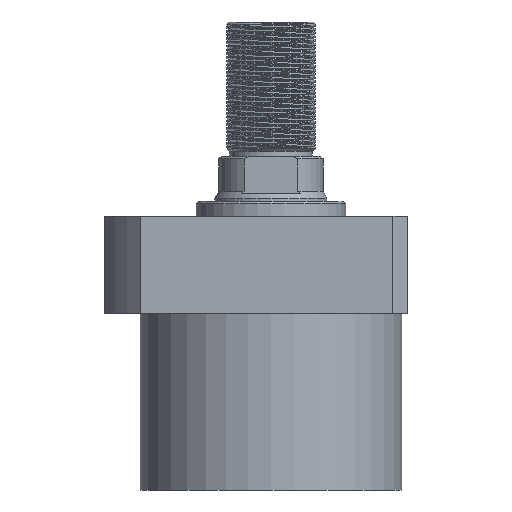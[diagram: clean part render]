
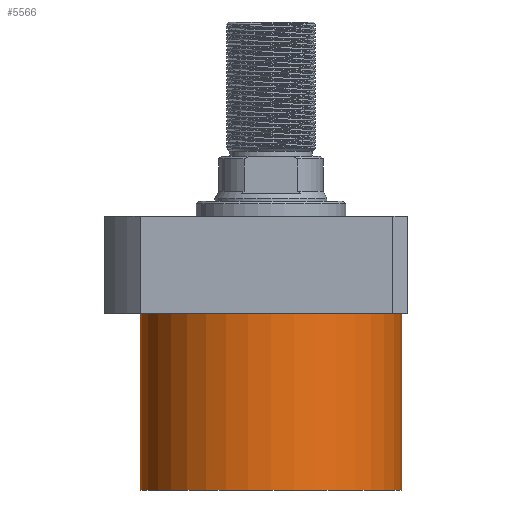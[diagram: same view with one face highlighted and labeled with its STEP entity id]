
A CAD part, front view. The second image highlights one B-rep face of the part: STEP entity #5566.
In plain terms, the highlighted cylindrical face has radius 52.5 mm (diameter 105 mm), a partial arc.
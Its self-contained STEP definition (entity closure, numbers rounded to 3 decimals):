
#49 = LINE ( 'NONE', #1736, #3253 ) ;
#504 = EDGE_CURVE ( 'NONE', #3330, #3195, #5134, .T. ) ;
#546 = ORIENTED_EDGE ( 'NONE', *, *, #5524, .F. ) ;
#766 = DIRECTION ( 'NONE',  ( 1., 0., 0. ) ) ;
#1197 = DIRECTION ( 'NONE',  ( 0., 0., 1. ) ) ;
#1736 = CARTESIAN_POINT ( 'NONE',  ( -52.5, 0., -90.5 ) ) ;
#2194 = CARTESIAN_POINT ( 'NONE',  ( -52.5, 0., -19.5 ) ) ;
#2449 = CARTESIAN_POINT ( 'NONE',  ( -52.5, 0., -90.5 ) ) ;
#3116 = CARTESIAN_POINT ( 'NONE',  ( 52.5, 0., -19.5 ) ) ;
#3195 = VERTEX_POINT ( 'NONE', #3116 ) ;
#3253 = VECTOR ( 'NONE', #3637, 1000. ) ;
#3271 = DIRECTION ( 'NONE',  ( 0., 0., -1. ) ) ;
#3312 = ORIENTED_EDGE ( 'NONE', *, *, #3823, .F. ) ;
#3330 = VERTEX_POINT ( 'NONE', #5776 ) ;
#3425 = VECTOR ( 'NONE', #1197, 1000. ) ;
#3560 = CARTESIAN_POINT ( 'NONE',  ( 0., 0., -19.5 ) ) ;
#3637 = DIRECTION ( 'NONE',  ( 0., 0., 1. ) ) ;
#3788 = CYLINDRICAL_SURFACE ( 'NONE', #6370, 52.5 ) ;
#3823 = EDGE_CURVE ( 'NONE', #5951, #7502, #49, .T. ) ;
#3841 = AXIS2_PLACEMENT_3D ( 'NONE', #7073, #3271, #7701 ) ;
#4052 = FACE_OUTER_BOUND ( 'NONE', #8079, .T. ) ;
#4192 = DIRECTION ( 'NONE',  ( 1., 0., 0. ) ) ;
#5134 = LINE ( 'NONE', #8081, #3425 ) ;
#5223 = CARTESIAN_POINT ( 'NONE',  ( 0., 0., -90.5 ) ) ;
#5524 = EDGE_CURVE ( 'NONE', #3330, #5951, #7221, .T. ) ;
#5566 = ADVANCED_FACE ( 'NONE', ( #4052 ), #3788, .T. ) ;
#5776 = CARTESIAN_POINT ( 'NONE',  ( 52.5, 0., -90.5 ) ) ;
#5795 = EDGE_CURVE ( 'NONE', #3195, #7502, #6306, .T. ) ;
#5854 = DIRECTION ( 'NONE',  ( 0., 0., 1. ) ) ;
#5951 = VERTEX_POINT ( 'NONE', #2449 ) ;
#6027 = ORIENTED_EDGE ( 'NONE', *, *, #504, .T. ) ;
#6270 = ORIENTED_EDGE ( 'NONE', *, *, #5795, .T. ) ;
#6306 = CIRCLE ( 'NONE', #7070, 52.5 ) ;
#6370 = AXIS2_PLACEMENT_3D ( 'NONE', #5223, #5854, #766 ) ;
#7070 = AXIS2_PLACEMENT_3D ( 'NONE', #3560, #7984, #4192 ) ;
#7073 = CARTESIAN_POINT ( 'NONE',  ( 0., 0., -90.5 ) ) ;
#7221 = CIRCLE ( 'NONE', #3841, 52.5 ) ;
#7502 = VERTEX_POINT ( 'NONE', #2194 ) ;
#7701 = DIRECTION ( 'NONE',  ( -1., 0., 0. ) ) ;
#7984 = DIRECTION ( 'NONE',  ( 0., 0., -1. ) ) ;
#8079 = EDGE_LOOP ( 'NONE', ( #3312, #546, #6027, #6270 ) ) ;
#8081 = CARTESIAN_POINT ( 'NONE',  ( 52.5, 0., -90.5 ) ) ;
